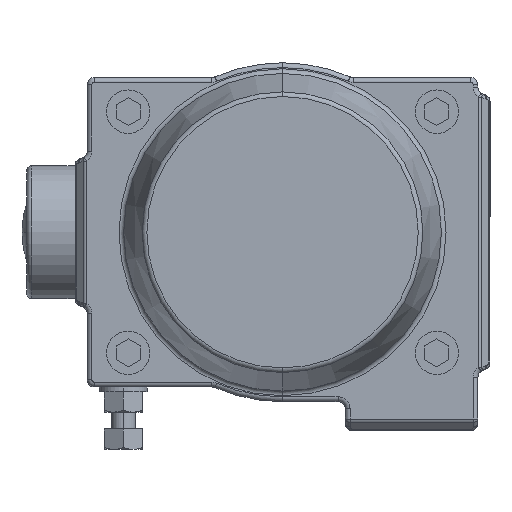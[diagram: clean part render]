
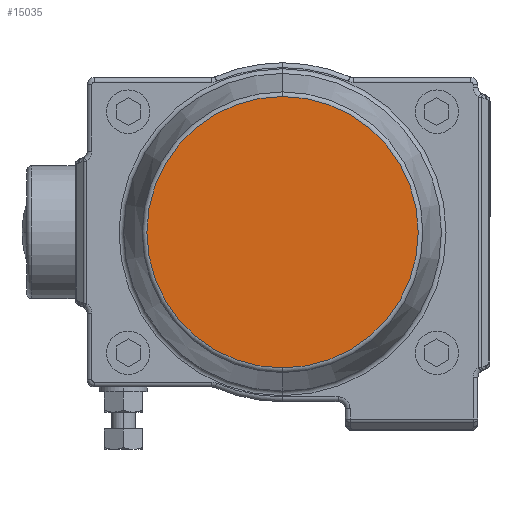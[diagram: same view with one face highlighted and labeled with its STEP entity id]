
A CAD part, left-side view. The second image highlights one B-rep face of the part: STEP entity #15035.
In plain terms, the highlighted planar face has unit normal (-1, 0, 0).
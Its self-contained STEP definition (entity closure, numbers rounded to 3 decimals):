
#411 = FACE_OUTER_BOUND ( 'NONE', #3977, .T. ) ;
#632 = CARTESIAN_POINT ( 'NONE',  ( -197.5, 0., 0. ) ) ;
#789 = EDGE_CURVE ( 'NONE', #11794, #1375, #15741, .T. ) ;
#1375 = VERTEX_POINT ( 'NONE', #4162 ) ;
#1667 = DIRECTION ( 'NONE',  ( -1., 0., 0. ) ) ;
#3977 = EDGE_LOOP ( 'NONE', ( #11877, #10005 ) ) ;
#4162 = CARTESIAN_POINT ( 'NONE',  ( -197.5, 0., -56.248 ) ) ;
#4182 = CARTESIAN_POINT ( 'NONE',  ( -197.5, 0., 56.248 ) ) ;
#4573 = CIRCLE ( 'NONE', #15130, 56.248 ) ;
#5711 = DIRECTION ( 'NONE',  ( 0., 0., 1. ) ) ;
#6434 = AXIS2_PLACEMENT_3D ( 'NONE', #15518, #1667, #14236 ) ;
#6694 = AXIS2_PLACEMENT_3D ( 'NONE', #7781, #13906, #11355 ) ;
#7781 = CARTESIAN_POINT ( 'NONE',  ( -197.5, 0., 0. ) ) ;
#10005 = ORIENTED_EDGE ( 'NONE', *, *, #14849, .T. ) ;
#11355 = DIRECTION ( 'NONE',  ( 0., 0., 1. ) ) ;
#11794 = VERTEX_POINT ( 'NONE', #4182 ) ;
#11877 = ORIENTED_EDGE ( 'NONE', *, *, #789, .T. ) ;
#11948 = DIRECTION ( 'NONE',  ( -1., 0., 0. ) ) ;
#12565 = PLANE ( 'NONE',  #6694 ) ;
#13906 = DIRECTION ( 'NONE',  ( -1., 0., 0. ) ) ;
#14236 = DIRECTION ( 'NONE',  ( 0., 0., 1. ) ) ;
#14849 = EDGE_CURVE ( 'NONE', #1375, #11794, #4573, .T. ) ;
#15035 = ADVANCED_FACE ( 'NONE', ( #411 ), #12565, .T. ) ;
#15130 = AXIS2_PLACEMENT_3D ( 'NONE', #632, #11948, #5711 ) ;
#15518 = CARTESIAN_POINT ( 'NONE',  ( -197.5, 0., 0. ) ) ;
#15741 = CIRCLE ( 'NONE', #6434, 56.248 ) ;
